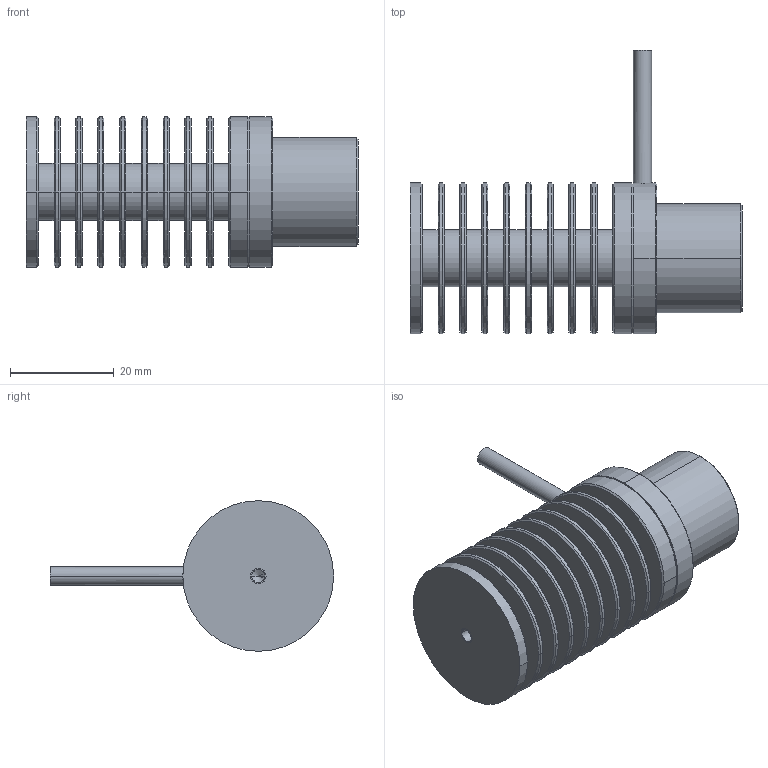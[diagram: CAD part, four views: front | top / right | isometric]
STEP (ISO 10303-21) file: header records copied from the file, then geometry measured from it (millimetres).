
FILE_DESCRIPTION((''),'2;1');
FILE_NAME('SANREZUO','2022-05-14T',('hyj'),(''),'PRO/ENGINEER BY PARAMETRIC TECHNOLOGY CORPORATION, 2010100','PRO/ENGINEER BY PARAMETRIC TECHNOLOGY CORPORATION, 2010100','');
FILE_SCHEMA(('CONFIG_CONTROL_DESIGN'));
Length unit declared in the file: millimetre
Products named in the file (1): SANREZUO
Bounding box: 63.9 x 54.5 x 29 mm (x, y, z)
Volume: 19338.9 mm3; surface area: 17239.9 mm2
Topology: 1 solids, 4 shells, 161 faces, 341 edges, 208 vertices
Faces by surface type: cylinder 65, cone 54, plane 40, sphere 2
Entity records: 4481 total; most frequent: DIRECTION 849, CARTESIAN_POINT 832, ORIENTED_EDGE 670, AXIS2_PLACEMENT_3D 357, EDGE_CURVE 337, VERTEX_POINT 208, CIRCLE 195, EDGE_LOOP 189
